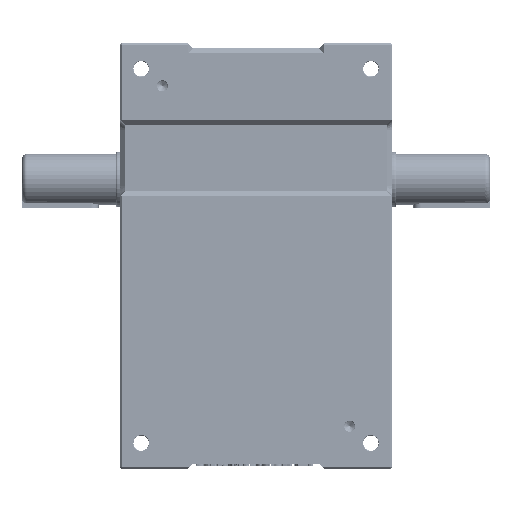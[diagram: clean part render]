
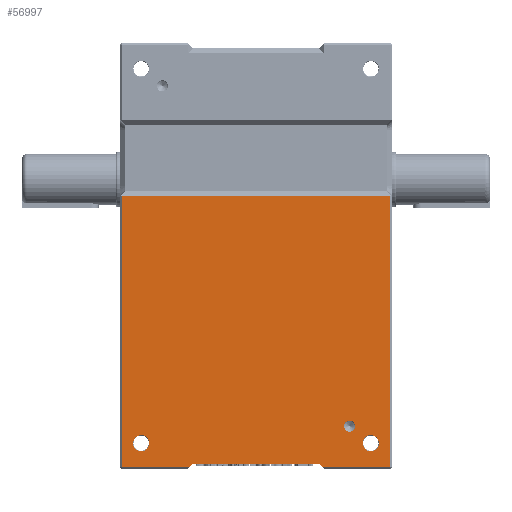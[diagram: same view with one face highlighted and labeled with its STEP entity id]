
A CAD part, front view. The second image highlights one B-rep face of the part: STEP entity #56997.
In plain terms, the highlighted planar face has unit normal (0, -1, 0).
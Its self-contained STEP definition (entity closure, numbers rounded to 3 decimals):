
#734 = VERTEX_POINT ( 'NONE', #59697 ) ;
#1518 = VERTEX_POINT ( 'NONE', #122200 ) ;
#2589 = ORIENTED_EDGE ( 'NONE', *, *, #72955, .F. ) ;
#3392 = CARTESIAN_POINT ( 'NONE',  ( -158., -175., 0. ) ) ;
#7689 = VECTOR ( 'NONE', #42289, 1000. ) ;
#8402 = VERTEX_POINT ( 'NONE', #120315 ) ;
#10695 = CARTESIAN_POINT ( 'NONE',  ( -74., -175., -244. ) ) ;
#10805 = ORIENTED_EDGE ( 'NONE', *, *, #29352, .F. ) ;
#12770 = DIRECTION ( 'NONE',  ( 0., -1., 0. ) ) ;
#12994 = DIRECTION ( 'NONE',  ( 0., 0., 1. ) ) ;
#14244 = LINE ( 'NONE', #50944, #112268 ) ;
#14443 = DIRECTION ( 'NONE',  ( -0.707, 0., -0.707 ) ) ;
#14946 = ORIENTED_EDGE ( 'NONE', *, *, #98552, .F. ) ;
#14979 = VERTEX_POINT ( 'NONE', #62167 ) ;
#16997 = DIRECTION ( 'NONE',  ( 0., -1., 0. ) ) ;
#17923 = CARTESIAN_POINT ( 'NONE',  ( 0., -175., -248. ) ) ;
#19071 = EDGE_CURVE ( 'NONE', #85535, #54195, #42524, .T. ) ;
#19399 = DIRECTION ( 'NONE',  ( -1., 0., 0. ) ) ;
#19949 = EDGE_CURVE ( 'NONE', #64731, #1518, #14244, .T. ) ;
#22800 = DIRECTION ( 'NONE',  ( 1., 0., 0. ) ) ;
#22879 = CARTESIAN_POINT ( 'NONE',  ( 0., -175., -248. ) ) ;
#24434 = ORIENTED_EDGE ( 'NONE', *, *, #119013, .F. ) ;
#24738 = DIRECTION ( 'NONE',  ( 0., 0., 1. ) ) ;
#25400 = EDGE_LOOP ( 'NONE', ( #69490, #2589, #80342, #96269, #10805, #69616, #121351, #73341 ) ) ;
#25731 = CARTESIAN_POINT ( 'NONE',  ( -135., -175., -220. ) ) ;
#26460 = CARTESIAN_POINT ( 'NONE',  ( -144.5, -175., -220. ) ) ;
#28331 = VERTEX_POINT ( 'NONE', #26460 ) ;
#29352 = EDGE_CURVE ( 'NONE', #114451, #8402, #108726, .T. ) ;
#30343 = ORIENTED_EDGE ( 'NONE', *, *, #113935, .F. ) ;
#30803 = ORIENTED_EDGE ( 'NONE', *, *, #19071, .F. ) ;
#31488 = LINE ( 'NONE', #61727, #50722 ) ;
#32507 = LINE ( 'NONE', #3392, #80049 ) ;
#32577 = CARTESIAN_POINT ( 'NONE',  ( 144.5, -175., -220. ) ) ;
#33976 = LINE ( 'NONE', #17923, #53231 ) ;
#34752 = ORIENTED_EDGE ( 'NONE', *, *, #108362, .F. ) ;
#34965 = EDGE_CURVE ( 'NONE', #110736, #50921, #100890, .T. ) ;
#35212 = DIRECTION ( 'NONE',  ( 0., 0., -1. ) ) ;
#35948 = DIRECTION ( 'NONE',  ( 0., -1., 0. ) ) ;
#37885 = EDGE_CURVE ( 'NONE', #1518, #114451, #112486, .T. ) ;
#40050 = DIRECTION ( 'NONE',  ( -0.707, 0., 0.707 ) ) ;
#40695 = CARTESIAN_POINT ( 'NONE',  ( 110., -175., -193.5 ) ) ;
#42289 = DIRECTION ( 'NONE',  ( -1., 0., 0. ) ) ;
#42524 = CIRCLE ( 'NONE', #58011, 9.5 ) ;
#42543 = FACE_BOUND ( 'NONE', #88867, .T. ) ;
#43645 = VERTEX_POINT ( 'NONE', #48435 ) ;
#44345 = EDGE_LOOP ( 'NONE', ( #30343, #34752 ) ) ;
#45203 = DIRECTION ( 'NONE',  ( 0., 0., -1. ) ) ;
#47457 = CIRCLE ( 'NONE', #70055, 9.5 ) ;
#47539 = CARTESIAN_POINT ( 'NONE',  ( 0., -175., -244. ) ) ;
#48435 = CARTESIAN_POINT ( 'NONE',  ( 110., -175., -206.5 ) ) ;
#49519 = EDGE_LOOP ( 'NONE', ( #30803, #24434 ) ) ;
#50331 = DIRECTION ( 'NONE',  ( 0., -1., 0. ) ) ;
#50722 = VECTOR ( 'NONE', #14443, 1000. ) ;
#50921 = VERTEX_POINT ( 'NONE', #10695 ) ;
#50944 = CARTESIAN_POINT ( 'NONE',  ( 0., -175., 70. ) ) ;
#51684 = AXIS2_PLACEMENT_3D ( 'NONE', #107218, #50331, #116775 ) ;
#52082 = EDGE_CURVE ( 'NONE', #55268, #734, #33976, .T. ) ;
#52417 = EDGE_CURVE ( 'NONE', #61150, #43645, #63645, .T. ) ;
#52638 = CARTESIAN_POINT ( 'NONE',  ( 125.5, -175., -220. ) ) ;
#53231 = VECTOR ( 'NONE', #84724, 1000. ) ;
#53818 = DIRECTION ( 'NONE',  ( 0., -1., 0. ) ) ;
#54195 = VERTEX_POINT ( 'NONE', #52638 ) ;
#55268 = VERTEX_POINT ( 'NONE', #61926 ) ;
#56997 = ADVANCED_FACE ( 'NONE', ( #42543, #93145, #118328, #67783 ), #108957, .F. ) ;
#58011 = AXIS2_PLACEMENT_3D ( 'NONE', #73830, #16997, #83419 ) ;
#59083 = AXIS2_PLACEMENT_3D ( 'NONE', #71983, #81602, #24738 ) ;
#59697 = CARTESIAN_POINT ( 'NONE',  ( -158., -175., -248. ) ) ;
#60272 = AXIS2_PLACEMENT_3D ( 'NONE', #92873, #35948, #102364 ) ;
#61150 = VERTEX_POINT ( 'NONE', #40695 ) ;
#61727 = CARTESIAN_POINT ( 'NONE',  ( -74., -175., -244. ) ) ;
#61926 = CARTESIAN_POINT ( 'NONE',  ( -78., -175., -248. ) ) ;
#61952 = VECTOR ( 'NONE', #45203, 1000. ) ;
#62167 = CARTESIAN_POINT ( 'NONE',  ( -125.5, -175., -220. ) ) ;
#63645 = CIRCLE ( 'NONE', #123308, 6.5 ) ;
#64574 = EDGE_CURVE ( 'NONE', #8402, #110736, #85653, .T. ) ;
#64731 = VERTEX_POINT ( 'NONE', #92661 ) ;
#67783 = FACE_OUTER_BOUND ( 'NONE', #25400, .T. ) ;
#69490 = ORIENTED_EDGE ( 'NONE', *, *, #52082, .F. ) ;
#69616 = ORIENTED_EDGE ( 'NONE', *, *, #37885, .F. ) ;
#69619 = CARTESIAN_POINT ( 'NONE',  ( 135., -175., -220. ) ) ;
#70055 = AXIS2_PLACEMENT_3D ( 'NONE', #25731, #92118, #35212 ) ;
#70540 = CARTESIAN_POINT ( 'NONE',  ( 158., -175., -248. ) ) ;
#71983 = CARTESIAN_POINT ( 'NONE',  ( 0., -175., 0. ) ) ;
#72955 = EDGE_CURVE ( 'NONE', #50921, #55268, #31488, .T. ) ;
#73341 = ORIENTED_EDGE ( 'NONE', *, *, #115199, .F. ) ;
#73830 = CARTESIAN_POINT ( 'NONE',  ( 135., -175., -220. ) ) ;
#74423 = CIRCLE ( 'NONE', #112420, 9.5 ) ;
#77992 = CIRCLE ( 'NONE', #51684, 6.5 ) ;
#79205 = DIRECTION ( 'NONE',  ( 1., 0., 0. ) ) ;
#80049 = VECTOR ( 'NONE', #12994, 1000. ) ;
#80342 = ORIENTED_EDGE ( 'NONE', *, *, #34965, .F. ) ;
#80859 = CARTESIAN_POINT ( 'NONE',  ( 74., -175., -244. ) ) ;
#81602 = DIRECTION ( 'NONE',  ( 0., 1., 0. ) ) ;
#83419 = DIRECTION ( 'NONE',  ( 1., 0., 0. ) ) ;
#84724 = DIRECTION ( 'NONE',  ( -1., 0., 0. ) ) ;
#85535 = VERTEX_POINT ( 'NONE', #32577 ) ;
#85653 = LINE ( 'NONE', #87425, #107902 ) ;
#87425 = CARTESIAN_POINT ( 'NONE',  ( 78., -175., -248. ) ) ;
#88867 = EDGE_LOOP ( 'NONE', ( #14946, #116514 ) ) ;
#92118 = DIRECTION ( 'NONE',  ( 0., -1., 0. ) ) ;
#92661 = CARTESIAN_POINT ( 'NONE',  ( -158., -175., 70. ) ) ;
#92873 = CARTESIAN_POINT ( 'NONE',  ( -135., -175., -220. ) ) ;
#93145 = FACE_BOUND ( 'NONE', #44345, .T. ) ;
#96269 = ORIENTED_EDGE ( 'NONE', *, *, #64574, .F. ) ;
#98552 = EDGE_CURVE ( 'NONE', #43645, #61150, #77992, .T. ) ;
#100890 = LINE ( 'NONE', #47539, #120207 ) ;
#102364 = DIRECTION ( 'NONE',  ( 0., 0., -1. ) ) ;
#107218 = CARTESIAN_POINT ( 'NONE',  ( 110., -175., -200. ) ) ;
#107902 = VECTOR ( 'NONE', #40050, 1000. ) ;
#108362 = EDGE_CURVE ( 'NONE', #28331, #14979, #119148, .T. ) ;
#108726 = LINE ( 'NONE', #22879, #7689 ) ;
#108957 = PLANE ( 'NONE',  #59083 ) ;
#110736 = VERTEX_POINT ( 'NONE', #80859 ) ;
#110738 = CARTESIAN_POINT ( 'NONE',  ( 110., -175., -200. ) ) ;
#112268 = VECTOR ( 'NONE', #22800, 1000. ) ;
#112420 = AXIS2_PLACEMENT_3D ( 'NONE', #69619, #12770, #79205 ) ;
#112486 = LINE ( 'NONE', #121227, #61952 ) ;
#113935 = EDGE_CURVE ( 'NONE', #14979, #28331, #47457, .T. ) ;
#114451 = VERTEX_POINT ( 'NONE', #70540 ) ;
#115199 = EDGE_CURVE ( 'NONE', #734, #64731, #32507, .T. ) ;
#116514 = ORIENTED_EDGE ( 'NONE', *, *, #52417, .F. ) ;
#116775 = DIRECTION ( 'NONE',  ( 0., 0., -1. ) ) ;
#118328 = FACE_BOUND ( 'NONE', #49519, .T. ) ;
#119013 = EDGE_CURVE ( 'NONE', #54195, #85535, #74423, .T. ) ;
#119148 = CIRCLE ( 'NONE', #60272, 9.5 ) ;
#120207 = VECTOR ( 'NONE', #19399, 1000. ) ;
#120266 = DIRECTION ( 'NONE',  ( 0., 0., -1. ) ) ;
#120315 = CARTESIAN_POINT ( 'NONE',  ( 78., -175., -248. ) ) ;
#121227 = CARTESIAN_POINT ( 'NONE',  ( 158., -175., 0. ) ) ;
#121351 = ORIENTED_EDGE ( 'NONE', *, *, #19949, .F. ) ;
#122200 = CARTESIAN_POINT ( 'NONE',  ( 158., -175., 70. ) ) ;
#123308 = AXIS2_PLACEMENT_3D ( 'NONE', #110738, #53818, #120266 ) ;
